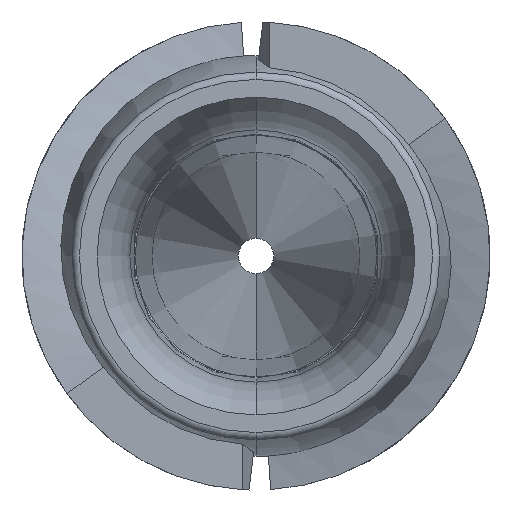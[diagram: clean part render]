
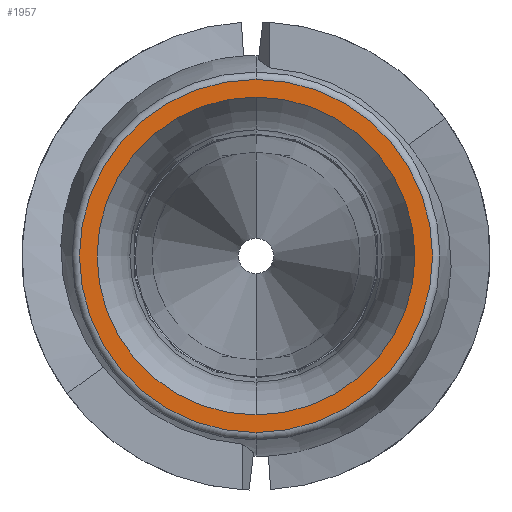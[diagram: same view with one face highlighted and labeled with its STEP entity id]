
A CAD part, front view. The second image highlights one B-rep face of the part: STEP entity #1957.
In plain terms, the highlighted planar face has unit normal (0, -1, 0).
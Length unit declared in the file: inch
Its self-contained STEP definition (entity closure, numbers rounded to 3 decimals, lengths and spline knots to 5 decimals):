
#21 = PLANE ( 'NONE',  #1618 ) ;
#24 = CARTESIAN_POINT ( 'NONE',  ( 0., 0., 0.11541 ) ) ;
#77 = EDGE_CURVE ( 'NONE', #286, #442, #544, .T. ) ;
#126 = EDGE_CURVE ( 'NONE', #2112, #1430, #437, .T. ) ;
#158 = FACE_OUTER_BOUND ( 'NONE', #361, .T. ) ;
#229 = DIRECTION ( 'NONE',  ( 0., -1., 0. ) ) ;
#262 = CARTESIAN_POINT ( 'NONE',  ( 0., 0., -0.10388 ) ) ;
#286 = VERTEX_POINT ( 'NONE', #650 ) ;
#293 = DIRECTION ( 'NONE',  ( 0., -1., 0. ) ) ;
#343 = DIRECTION ( 'NONE',  ( 0., -1., 0. ) ) ;
#361 = EDGE_LOOP ( 'NONE', ( #970, #1538 ) ) ;
#437 = CIRCLE ( 'NONE', #1922, 0.10388 ) ;
#442 = VERTEX_POINT ( 'NONE', #24 ) ;
#451 = DIRECTION ( 'NONE',  ( 0., 0., -1. ) ) ;
#511 = CARTESIAN_POINT ( 'NONE',  ( 0., 0., 0. ) ) ;
#512 = DIRECTION ( 'NONE',  ( 0., 1., 0. ) ) ;
#544 = CIRCLE ( 'NONE', #744, 0.11541 ) ;
#605 = AXIS2_PLACEMENT_3D ( 'NONE', #511, #343, #1519 ) ;
#650 = CARTESIAN_POINT ( 'NONE',  ( 0., 0., -0.11541 ) ) ;
#657 = CIRCLE ( 'NONE', #1258, 0.10388 ) ;
#744 = AXIS2_PLACEMENT_3D ( 'NONE', #1721, #229, #2056 ) ;
#759 = EDGE_CURVE ( 'NONE', #442, #286, #968, .T. ) ;
#846 = ORIENTED_EDGE ( 'NONE', *, *, #126, .F. ) ;
#880 = EDGE_LOOP ( 'NONE', ( #1649, #846 ) ) ;
#937 = DIRECTION ( 'NONE',  ( 0., -1., 0. ) ) ;
#968 = CIRCLE ( 'NONE', #605, 0.11541 ) ;
#970 = ORIENTED_EDGE ( 'NONE', *, *, #759, .T. ) ;
#1004 = DIRECTION ( 'NONE',  ( 0., 0., 1. ) ) ;
#1033 = EDGE_CURVE ( 'NONE', #1430, #2112, #657, .T. ) ;
#1247 = CARTESIAN_POINT ( 'NONE',  ( 0., 0., 0. ) ) ;
#1253 = DIRECTION ( 'NONE',  ( 0., 0., -1. ) ) ;
#1258 = AXIS2_PLACEMENT_3D ( 'NONE', #1285, #293, #451 ) ;
#1285 = CARTESIAN_POINT ( 'NONE',  ( 0., 0., 0. ) ) ;
#1430 = VERTEX_POINT ( 'NONE', #262 ) ;
#1519 = DIRECTION ( 'NONE',  ( 0., 0., 1. ) ) ;
#1536 = CARTESIAN_POINT ( 'NONE',  ( 0., 0., 0.10388 ) ) ;
#1538 = ORIENTED_EDGE ( 'NONE', *, *, #77, .T. ) ;
#1618 = AXIS2_PLACEMENT_3D ( 'NONE', #1665, #512, #1004 ) ;
#1649 = ORIENTED_EDGE ( 'NONE', *, *, #1033, .F. ) ;
#1657 = FACE_BOUND ( 'NONE', #880, .T. ) ;
#1665 = CARTESIAN_POINT ( 'NONE',  ( 0.11912, 0., 0. ) ) ;
#1721 = CARTESIAN_POINT ( 'NONE',  ( 0., 0., 0. ) ) ;
#1922 = AXIS2_PLACEMENT_3D ( 'NONE', #1247, #937, #1253 ) ;
#1957 = ADVANCED_FACE ( 'NONE', ( #158, #1657 ), #21, .F. ) ;
#2056 = DIRECTION ( 'NONE',  ( 0., 0., 1. ) ) ;
#2112 = VERTEX_POINT ( 'NONE', #1536 ) ;
